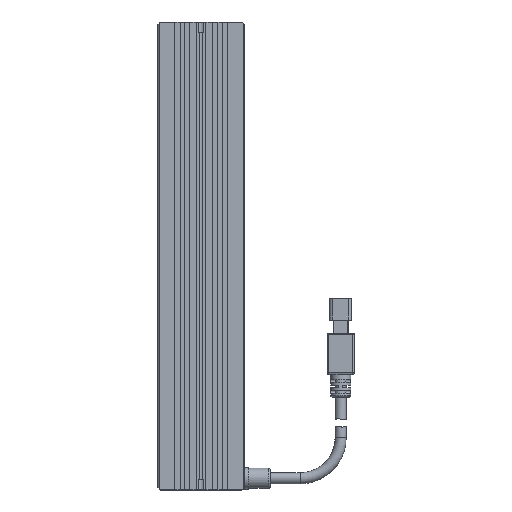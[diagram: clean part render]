
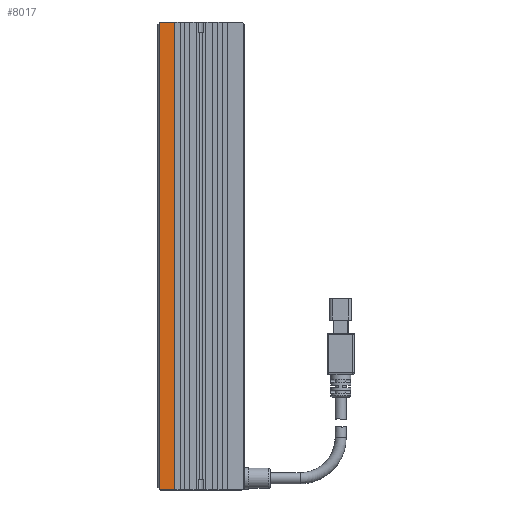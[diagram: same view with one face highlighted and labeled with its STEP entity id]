
A CAD part, top view. The second image highlights one B-rep face of the part: STEP entity #8017.
In plain terms, the highlighted planar face has unit normal (0, 0, 1).
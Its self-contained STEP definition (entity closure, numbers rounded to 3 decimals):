
#59 = ORIENTED_EDGE ( 'NONE', *, *, #17182, .F. ) ;
#77 = ORIENTED_EDGE ( 'NONE', *, *, #17245, .T. ) ;
#522 = VECTOR ( 'NONE', #3397, 1000. ) ;
#618 = VERTEX_POINT ( 'NONE', #4377 ) ;
#956 = VERTEX_POINT ( 'NONE', #2366 ) ;
#1163 = CARTESIAN_POINT ( 'NONE',  ( -15.5, 86.5, 12.5 ) ) ;
#1493 = CARTESIAN_POINT ( 'NONE',  ( -15.5, 86.5, 12.5 ) ) ;
#1723 = ORIENTED_EDGE ( 'NONE', *, *, #3085, .T. ) ;
#2366 = CARTESIAN_POINT ( 'NONE',  ( -15., 86.5, 12.5 ) ) ;
#2486 = EDGE_CURVE ( 'NONE', #13134, #7677, #16522, .T. ) ;
#2621 = CARTESIAN_POINT ( 'NONE',  ( -15.5, -86.5, 12.5 ) ) ;
#3085 = EDGE_CURVE ( 'NONE', #956, #13662, #3124, .T. ) ;
#3124 = LINE ( 'NONE', #11844, #15639 ) ;
#3156 = VECTOR ( 'NONE', #15517, 1000. ) ;
#3397 = DIRECTION ( 'NONE',  ( 0., -1., 0. ) ) ;
#4247 = CARTESIAN_POINT ( 'NONE',  ( -9.7, 86.5, 12.5 ) ) ;
#4377 = CARTESIAN_POINT ( 'NONE',  ( -9.7, 86.5, 12.5 ) ) ;
#4648 = FACE_OUTER_BOUND ( 'NONE', #10463, .T. ) ;
#5115 = ORIENTED_EDGE ( 'NONE', *, *, #6574, .F. ) ;
#5998 = ORIENTED_EDGE ( 'NONE', *, *, #2486, .T. ) ;
#6574 = EDGE_CURVE ( 'NONE', #618, #17650, #13483, .T. ) ;
#7200 = CARTESIAN_POINT ( 'NONE',  ( -16., -85.5, 12.5 ) ) ;
#7525 = ORIENTED_EDGE ( 'NONE', *, *, #12863, .T. ) ;
#7555 = CARTESIAN_POINT ( 'NONE',  ( -15.5, 86.5, 12.5 ) ) ;
#7677 = VERTEX_POINT ( 'NONE', #17901 ) ;
#7779 = VECTOR ( 'NONE', #12642, 1000. ) ;
#8017 = ADVANCED_FACE ( 'NONE', ( #4648 ), #9947, .F. ) ;
#8173 = DIRECTION ( 'NONE',  ( -0.707, -0.707, 0. ) ) ;
#8677 = CARTESIAN_POINT ( 'NONE',  ( -9.7, -86.5, 12.5 ) ) ;
#9705 = DIRECTION ( 'NONE',  ( -1., 0., 0. ) ) ;
#9947 = PLANE ( 'NONE',  #9984 ) ;
#9984 = AXIS2_PLACEMENT_3D ( 'NONE', #1493, #16782, #9705 ) ;
#10463 = EDGE_LOOP ( 'NONE', ( #59, #1723, #7525, #5998, #77, #5115 ) ) ;
#10585 = VECTOR ( 'NONE', #16725, 1000. ) ;
#11258 = LINE ( 'NONE', #2621, #7779 ) ;
#11844 = CARTESIAN_POINT ( 'NONE',  ( -15., 86.5, 12.5 ) ) ;
#12530 = DIRECTION ( 'NONE',  ( 1., 0., 0. ) ) ;
#12642 = DIRECTION ( 'NONE',  ( 1., 0., 0. ) ) ;
#12863 = EDGE_CURVE ( 'NONE', #13662, #13134, #16972, .T. ) ;
#13134 = VERTEX_POINT ( 'NONE', #17179 ) ;
#13483 = LINE ( 'NONE', #4247, #10585 ) ;
#13662 = VERTEX_POINT ( 'NONE', #15049 ) ;
#13720 = VECTOR ( 'NONE', #12530, 1000. ) ;
#15049 = CARTESIAN_POINT ( 'NONE',  ( -15.5, 86., 12.5 ) ) ;
#15517 = DIRECTION ( 'NONE',  ( 0.707, -0.707, 0. ) ) ;
#15639 = VECTOR ( 'NONE', #8173, 1000. ) ;
#16522 = LINE ( 'NONE', #7200, #3156 ) ;
#16725 = DIRECTION ( 'NONE',  ( 0., -1., 0. ) ) ;
#16782 = DIRECTION ( 'NONE',  ( 0., 0., -1. ) ) ;
#16972 = LINE ( 'NONE', #7555, #522 ) ;
#17179 = CARTESIAN_POINT ( 'NONE',  ( -15.5, -86., 12.5 ) ) ;
#17182 = EDGE_CURVE ( 'NONE', #956, #618, #17699, .T. ) ;
#17245 = EDGE_CURVE ( 'NONE', #7677, #17650, #11258, .T. ) ;
#17650 = VERTEX_POINT ( 'NONE', #8677 ) ;
#17699 = LINE ( 'NONE', #1163, #13720 ) ;
#17901 = CARTESIAN_POINT ( 'NONE',  ( -15., -86.5, 12.5 ) ) ;
